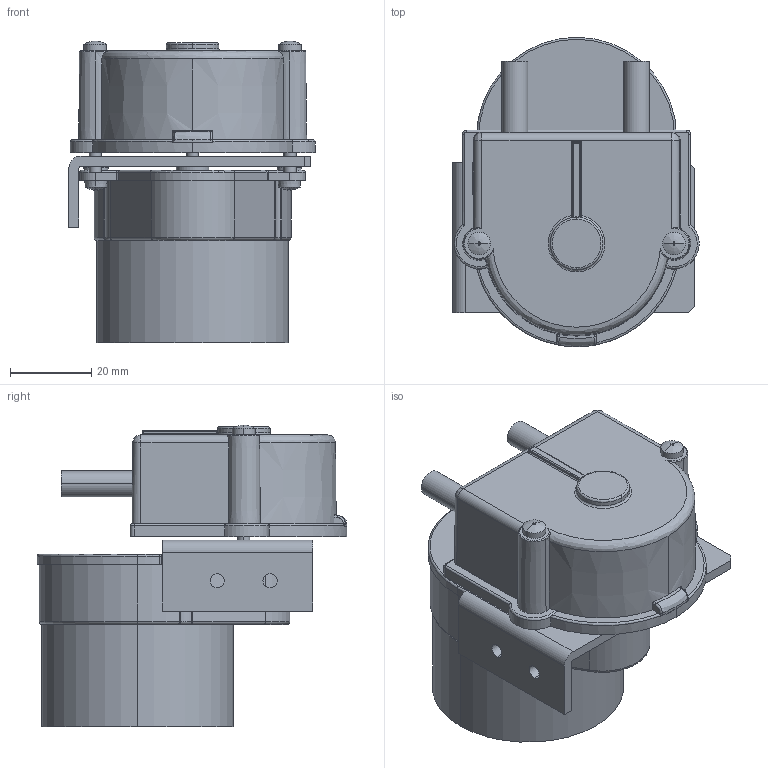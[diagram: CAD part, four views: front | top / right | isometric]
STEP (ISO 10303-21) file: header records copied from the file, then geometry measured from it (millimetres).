
FILE_DESCRIPTION (( 'STEP AP203' ), '1' );
FILE_NAME ('200 series ac r motor.STEP', '2024-07-09T13:41:57', ( '' ), ( '' ), 'SwSTEP 2.0', 'SolidWorks 2017', '' );
FILE_SCHEMA (( 'CONFIG_CONTROL_DESIGN' ));
Length unit declared in the file: millimetre
Products named in the file (17): 2; 5; 52411-1 NEW 200 SERIES BACK PLATE; tube; 200 series ac  r motor; 52412-1 NEW 200 SERIES BODY; screw_gbt_15856_1_st3_5x16_z; 4; 8; 7; 3; 52415-1 NEW 200 SERIES ASSEMBLY; 1; m3 x 30 screw; A.C motor and bracketl; 6; 9
Assembly tree (17 placements, depth 3):
  200 series ac  r motor
    A.C motor and bracketl
      1
      3
      4
      5
      6
      7
      8
      9
    52415-1 NEW 200 SERIES ASSEMBLY
      52412-1 NEW 200 SERIES BODY
      52411-1 NEW 200 SERIES BACK PLATE
      tube
      screw_gbt_15856_1_st3_5x16_z
    m3 x 30 screw  x2
    2
Bounding box: 60.7 x 76.27 x 74.32 mm (x, y, z)
Volume: 116819.1 mm3; surface area: 47608.1 mm2
Topology: 15 solids, 17 shells, 803 faces, 2005 edges, 1244 vertices
Faces by surface type: plane 298, cylinder 248, bspline 113, cone 106, torus 30, sphere 8
Entity records: 29634 total; most frequent: CARTESIAN_POINT 9875, ORIENTED_EDGE 3856, DIRECTION 3647, EDGE_CURVE 1928, AXIS2_PLACEMENT_3D 1363, VERTEX_POINT 1204, LINE 921, VECTOR 921
